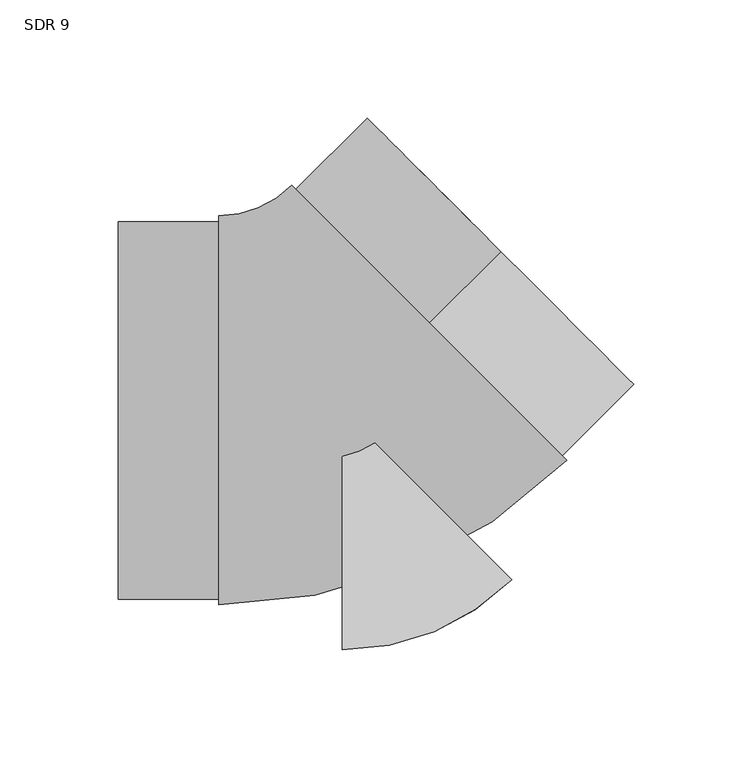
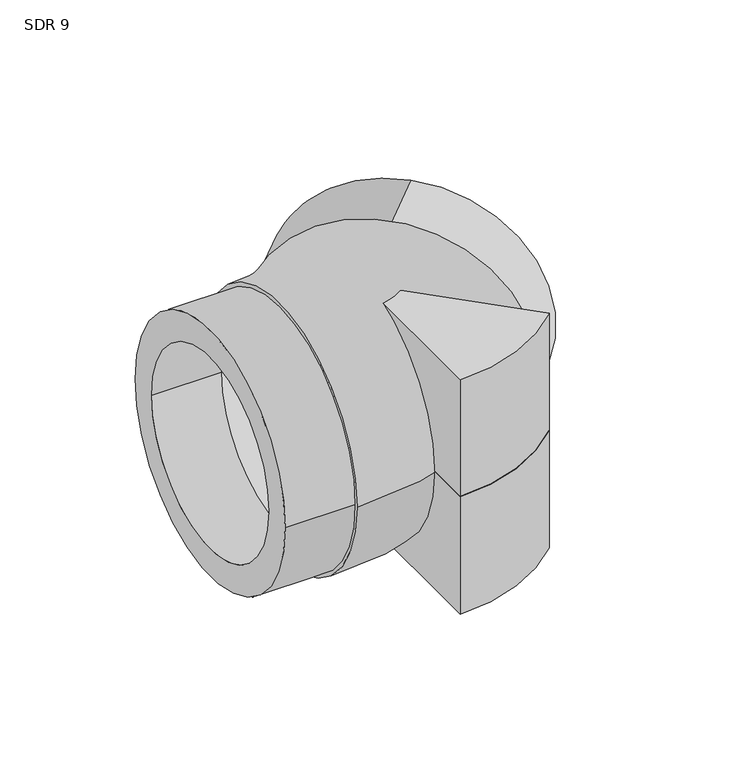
"""IFC4 building model written with IfcOpenShell, lengths in millimetres: pipe fitting geometry, Aquatherm - Elbow BW Molded : SDR 9."""

from ifc_helpers import new_model, si_unit, point, frame, frame_2d, origin, origin_with_axes, origin_2d, place, context, project, spatial, polyline, circle_curve, ellipse_curve, trimmed, segment, composite_curve, outline, extrude, source, transform, mapped, element, save
from ifc_brep_helpers import plane_surface, revolved_surface, advanced_brep


def sdr_9_2fbf9a18(model_context):
    return source(origin(), model_context, "Body", "SolidModel", [
        extrude(outline(composite_curve([segment(polyline([(0.0, -101.6), (0.0, 0.0), (71.8525728, -71.8315236)]), True, "CONTINUOUS"), segment(trimmed(circle_curve(origin_2d(), 101.6), [point((71.8525728, -71.8315236))], [point((0.0, -101.6))], False, "CARTESIAN"), True, "CONTINUOUS")], self_intersect=False)), frame((0.0, 0.0, -76.2), z_axis=(0.0, 0.0, 1.0), x_axis=(1.0, 0.0, 0.0)), (0.0, 0.0, 1.0), 76.2),
        extrude(outline(composite_curve([segment(trimmed(circle_curve(origin_2d(), 101.6), [point((71.8525728, -71.8315236))], [point((0.0, -101.6))], False, "CARTESIAN"), True, "CONTINUOUS"), segment(polyline([(0.0, -101.6), (0.0, 0.0), (71.8525728, -71.8315236)]), True, "CONTINUOUS")], self_intersect=False)), origin_with_axes(), (0.0, 0.0, 1.0), 76.2),
        extrude(outline(composite_curve([segment(trimmed(circle_curve(frame_2d((0.0, -80.01)), 80.01), [point((0.0, -160.02))], [point((0.0, 0.0))], False, "CARTESIAN"), True, "CONTINUOUS"), segment(trimmed(circle_curve(frame_2d((0.0, -80.01)), 80.01), [point((0.0, 0.0))], [point((0.0, -160.02))], False, "CARTESIAN"), True, "CONTINUOUS")], self_intersect=False), holes=[composite_curve([segment(trimmed(circle_curve(frame_2d((0.0, -80.01)), 62.23), [point((0.0, -142.24))], [point((0.0, -17.78))], True, "CARTESIAN"), True, "CONTINUOUS"), segment(trimmed(circle_curve(frame_2d((0.0, -80.01)), 62.23), [point((0.0, -17.78))], [point((0.0, -142.24))], True, "CARTESIAN"), True, "CONTINUOUS")], self_intersect=False)]), frame((36.939361, 36.9501856, 80.01), z_axis=(0.7070031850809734, 0.7072103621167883, 0.0), x_axis=(-0.7072103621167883, 0.7070031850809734, 0.0)), (0.0, 0.0, 1.0), 42.7482),
        extrude(outline(composite_curve([segment(trimmed(circle_curve(frame_2d((-0.1496481, 0.0)), 80.01), [point((79.8603519, 0.0))], [point((-80.1596481, 0.0))], False, "CARTESIAN"), True, "CONTINUOUS"), segment(trimmed(circle_curve(frame_2d((-0.1496481, 0.0)), 80.01), [point((-80.1596481, 0.0))], [point((79.8603519, 0.0))], False, "CARTESIAN"), True, "CONTINUOUS")], self_intersect=False), holes=[composite_curve([segment(trimmed(circle_curve(origin_2d(), 62.23), [point((62.23, 0.0))], [point((-62.23, 0.0))], True, "CARTESIAN"), True, "CONTINUOUS"), segment(trimmed(circle_curve(origin_2d(), 62.23), [point((-62.23, 0.0))], [point((62.23, 0.0))], True, "CARTESIAN"), True, "CONTINUOUS")], self_intersect=False)]), frame((-94.996, 0.0, 0.0), z_axis=(1.0, 0.0, 0.0), x_axis=(0.0, 1.0, 0.0)), (0.0, 0.0, 1.0), 42.7482),
        advanced_brep(
        [(-52.2478, -82.4103, 0.0), (-52.2478, 82.4103, 0.0), (-52.2478, -62.23, 0.0), (-52.2478, 62.23, 0.0), (95.2207791, -21.314159, 0.0), (-21.3420571, 95.2145301, 0.0), (80.9490618, -7.0466226, 0.0), (-7.0703398, 80.9469938, 0.0)],
        [
            (0, 1, circle_curve(frame((-52.2478, 0.0, 0.0), z_axis=(-1.0, 0.0, 0.0), x_axis=(0.0, 1.0, 0.0)), 82.4103)),
            (1, 0, circle_curve(frame((-52.2478, 0.0, 0.0), z_axis=(-1.0, 0.0, 0.0), x_axis=(0.0, 1.0, 0.0)), 82.4103)),
            (2, 3, circle_curve(frame((-52.2478, 0.0, 0.0), z_axis=(1.0, 0.0, 0.0), x_axis=(0.0, 1.0, 0.0)), 62.23)),
            (3, 2, circle_curve(frame((-52.2478, 0.0, 0.0), z_axis=(1.0, 0.0, 0.0), x_axis=(0.0, 1.0, 0.0)), 62.23)),
            (4, 5, circle_curve(frame((36.939361, 36.9501856, 0.0), z_axis=(0.7070031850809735, 0.7072103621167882, 0.0), x_axis=(-0.7072103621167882, 0.7070031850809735, 0.0)), 82.4103)),
            (5, 4, circle_curve(frame((36.939361, 36.9501856, 0.0), z_axis=(0.7070031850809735, 0.7072103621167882, 0.0), x_axis=(-0.7072103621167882, 0.7070031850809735, 0.0)), 82.4103)),
            (6, 7, circle_curve(frame((36.939361, 36.9501856, 0.0), z_axis=(-0.7070031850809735, -0.7072103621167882, 0.0), x_axis=(-0.7072103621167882, 0.7070031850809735, 0.0)), 62.23)),
            (7, 6, circle_curve(frame((36.939361, 36.9501856, 0.0), z_axis=(-0.7070031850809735, -0.7072103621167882, 0.0), x_axis=(-0.7072103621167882, 0.7070031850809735, 0.0)), 62.23)),
            (5, 1, circle_curve(frame((-52.2478, 126.1112192, 0.0), z_axis=(0.0, 0.0, -1.0), x_axis=(0.0, -1.0, 0.0)), 43.7009192)),
            (0, 4, circle_curve(frame((-52.2478, 126.1112192, 0.0), z_axis=(0.0, 0.0, 1.0), x_axis=(0.0, -1.0, 0.0)), 208.5215192)),
            (7, 3, circle_curve(frame((-52.2478, 126.1112192, 0.0), z_axis=(0.0, 0.0, -1.0), x_axis=(0.0, -1.0, 0.0)), 63.8812192)),
            (2, 6, circle_curve(frame((-52.2478, 126.1112192, 0.0), z_axis=(0.0, 0.0, 1.0), x_axis=(0.0, -1.0, 0.0)), 188.3412192)),
        ],
        [
            plane_surface(frame((-52.2478, 0.0, 0.0), z_axis=(-1.0, 0.0, 0.0), x_axis=(0.0, 0.0, 1.0))),
            plane_surface(frame((36.939361, 36.9501856, 0.0), z_axis=(0.7070031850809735, 0.7072103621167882, 0.0), x_axis=(0.0, 0.0, 1.0))),
            revolved_surface(trimmed(ellipse_curve(frame((-52.2478, 0.0, 0.0), z_axis=(-1.0, 0.0, 0.0), x_axis=(0.0, 1.0, 0.0)), 82.4103, 82.4103), [point((-52.2478, -82.4103, 0.0))], [point((-52.2478, 82.4103, 0.0))], True, "CARTESIAN"), (-52.2478, 126.1112192, 0.0), (0.0, 0.0, 1.0)),
            revolved_surface(trimmed(ellipse_curve(frame((-52.2478, 0.0, 0.0), z_axis=(-1.0, 0.0, 0.0), x_axis=(0.0, 1.0, 0.0)), 82.4103, 82.4103), [point((-52.2478, 82.4103, 0.0))], [point((-52.2478, -82.4103, 0.0))], True, "CARTESIAN"), (-52.2478, 126.1112192, 0.0), (0.0, 0.0, 1.0)),
            revolved_surface(trimmed(ellipse_curve(frame((-52.2478, 0.0, 0.0), z_axis=(1.0, 0.0, 0.0), x_axis=(0.0, 1.0, 0.0)), 62.23, 62.23), [point((-52.2478, -62.23, 0.0))], [point((-52.2478, 62.23, 0.0))], True, "CARTESIAN"), (-52.2478, 126.1112192, 0.0), (0.0, 0.0, 1.0)),
            revolved_surface(trimmed(ellipse_curve(frame((-52.2478, 0.0, 0.0), z_axis=(1.0, 0.0, 0.0), x_axis=(0.0, 1.0, 0.0)), 62.23, 62.23), [point((-52.2478, 62.23, 0.0))], [point((-52.2478, -62.23, 0.0))], True, "CARTESIAN"), (-52.2478, 126.1112192, 0.0), (0.0, 0.0, 1.0)),
        ],
        [
            (0, [[1, 2], [3, 4]]),
            (1, [[5, 6], [7, 8]]),
            (2, [[9, -1, 10, -6]]),
            (3, [[-10, -2, -9, -5]]),
            (4, [[11, -3, 12, -8]]),
            (5, [[-12, -4, -11, -7]]),
        ],
    ),
    ])


if __name__ == "__main__":
    model = new_model("IFC4")
    model_context = context("Model", 3, world=origin())
    ifc_project = project(units=[si_unit("LENGTHUNIT", "METRE", prefix="MILLI")], contexts=[model_context])
    site = spatial("IfcSite", under=ifc_project)
    building = spatial("IfcBuilding", under=site)
    placement = place(None, origin())
    sdr_9_shape = sdr_9_2fbf9a18(model_context)
    element("IfcPipeFitting", 1, ObjectType="Aquatherm - Elbow BW Molded : SDR 9", at=placement, inside=building, context=model_context, shape_type="MappedRepresentation", body=[
        mapped(sdr_9_shape, transform((0.0, 0.0, 0.0), x_axis=(1.0, 0.0, 0.0), y_axis=(0.0, 1.0, 0.0), z_axis=(0.0, 0.0, 1.0))),
    ])
    save(model, "model.ifc")
